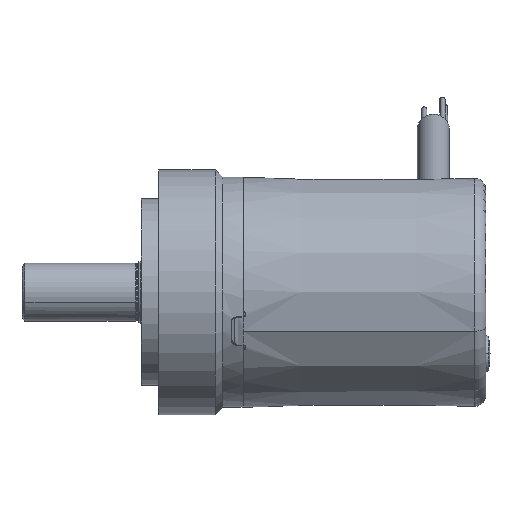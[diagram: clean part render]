
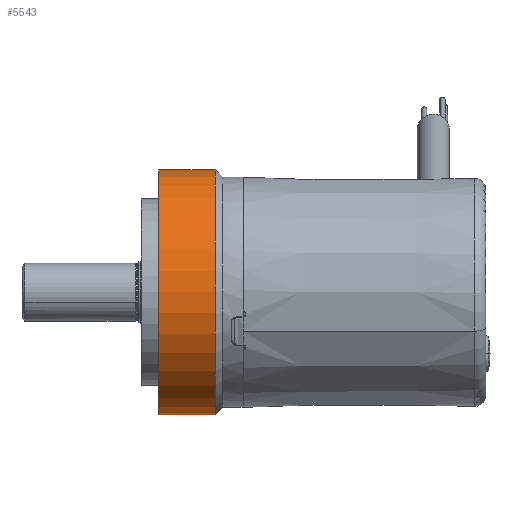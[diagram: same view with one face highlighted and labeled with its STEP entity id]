
A CAD part, top view. The second image highlights one B-rep face of the part: STEP entity #5543.
In plain terms, the highlighted cylindrical face has radius 21 mm (diameter 42 mm), a partial arc.
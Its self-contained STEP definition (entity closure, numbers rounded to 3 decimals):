
#402 = EDGE_CURVE ( 'NONE', #3623, #14147, #16353, .T. ) ;
#447 = DIRECTION ( 'NONE',  ( -1., 0., 0. ) ) ;
#749 = EDGE_CURVE ( 'NONE', #14147, #11211, #21929, .T. ) ;
#1478 = CARTESIAN_POINT ( 'NONE',  ( 12.7, -21., 0. ) ) ;
#1570 = DIRECTION ( 'NONE',  ( -1., 0., 0. ) ) ;
#2447 = VERTEX_POINT ( 'NONE', #7759 ) ;
#3435 = FACE_OUTER_BOUND ( 'NONE', #18962, .T. ) ;
#3623 = VERTEX_POINT ( 'NONE', #1478 ) ;
#4527 = ORIENTED_EDGE ( 'NONE', *, *, #17147, .T. ) ;
#4798 = VECTOR ( 'NONE', #19234, 1000. ) ;
#5543 = ADVANCED_FACE ( 'NONE', ( #3435 ), #6779, .T. ) ;
#6779 = CYLINDRICAL_SURFACE ( 'NONE', #17514, 21. ) ;
#7205 = CARTESIAN_POINT ( 'NONE',  ( 3., 0., 0. ) ) ;
#7759 = CARTESIAN_POINT ( 'NONE',  ( 12.7, 21., 0. ) ) ;
#10517 = LINE ( 'NONE', #16309, #14663 ) ;
#10567 = AXIS2_PLACEMENT_3D ( 'NONE', #7205, #447, #18269 ) ;
#10670 = DIRECTION ( 'NONE',  ( -1., 0., 0. ) ) ;
#11081 = EDGE_CURVE ( 'NONE', #3623, #2447, #16957, .T. ) ;
#11116 = CARTESIAN_POINT ( 'NONE',  ( -1.958, -21., 0. ) ) ;
#11211 = VERTEX_POINT ( 'NONE', #14141 ) ;
#11582 = ORIENTED_EDGE ( 'NONE', *, *, #402, .F. ) ;
#12215 = CARTESIAN_POINT ( 'NONE',  ( 12.7, 0., 0. ) ) ;
#12914 = ORIENTED_EDGE ( 'NONE', *, *, #11081, .T. ) ;
#13987 = DIRECTION ( 'NONE',  ( 0., -1., 0. ) ) ;
#14019 = CARTESIAN_POINT ( 'NONE',  ( -1.958, 0., 0. ) ) ;
#14141 = CARTESIAN_POINT ( 'NONE',  ( 3., 21., 0. ) ) ;
#14147 = VERTEX_POINT ( 'NONE', #17077 ) ;
#14663 = VECTOR ( 'NONE', #10670, 1000. ) ;
#15609 = ORIENTED_EDGE ( 'NONE', *, *, #749, .F. ) ;
#15893 = DIRECTION ( 'NONE',  ( 0., -1., 0. ) ) ;
#16309 = CARTESIAN_POINT ( 'NONE',  ( -1.958, 21., 0. ) ) ;
#16353 = LINE ( 'NONE', #11116, #4798 ) ;
#16957 = CIRCLE ( 'NONE', #19075, 21. ) ;
#17077 = CARTESIAN_POINT ( 'NONE',  ( 3., -21., 0. ) ) ;
#17147 = EDGE_CURVE ( 'NONE', #2447, #11211, #10517, .T. ) ;
#17514 = AXIS2_PLACEMENT_3D ( 'NONE', #14019, #19294, #15893 ) ;
#18269 = DIRECTION ( 'NONE',  ( 0., -1., 0. ) ) ;
#18962 = EDGE_LOOP ( 'NONE', ( #12914, #4527, #15609, #11582 ) ) ;
#19075 = AXIS2_PLACEMENT_3D ( 'NONE', #12215, #1570, #13987 ) ;
#19234 = DIRECTION ( 'NONE',  ( -1., 0., 0. ) ) ;
#19294 = DIRECTION ( 'NONE',  ( -1., 0., 0. ) ) ;
#21929 = CIRCLE ( 'NONE', #10567, 21. ) ;
